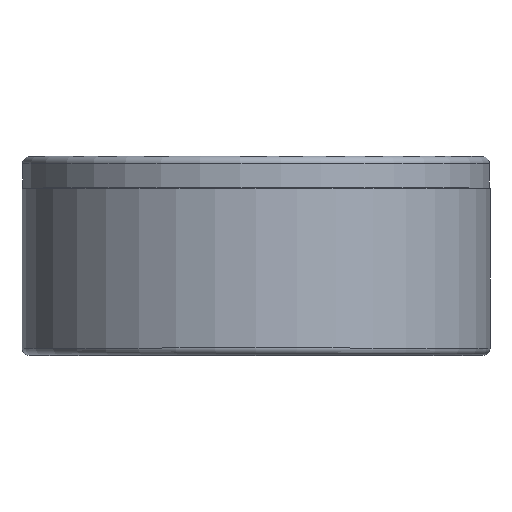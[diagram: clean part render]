
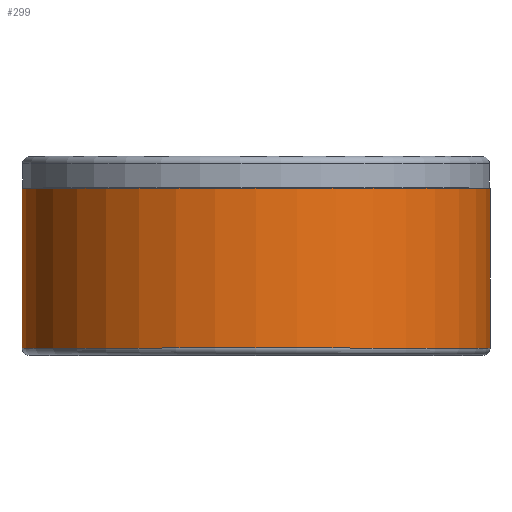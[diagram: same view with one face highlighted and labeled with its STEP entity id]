
A CAD part, top view. The second image highlights one B-rep face of the part: STEP entity #299.
In plain terms, the highlighted cylindrical face has radius 33.375 mm (diameter 66.75 mm), a full revolution.
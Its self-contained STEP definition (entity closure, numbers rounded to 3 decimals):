
#22=LINE('',#518,#30);
#30=VECTOR('',#413,33.375);
#38=CYLINDRICAL_SURFACE('',#345,33.375);
#52=FACE_OUTER_BOUND('',#72,.T.);
#72=EDGE_LOOP('',(#204,#205,#206,#207,#208));
#97=CIRCLE('',#344,33.375);
#98=CIRCLE('',#346,33.375);
#99=CIRCLE('',#347,33.375);
#129=VERTEX_POINT('',#514);
#130=VERTEX_POINT('',#517);
#131=VERTEX_POINT('',#519);
#159=EDGE_CURVE('',#129,#129,#97,.T.);
#160=EDGE_CURVE('',#129,#130,#22,.T.);
#161=EDGE_CURVE('',#131,#130,#98,.T.);
#162=EDGE_CURVE('',#130,#131,#99,.T.);
#204=ORIENTED_EDGE('',*,*,#159,.F.);
#205=ORIENTED_EDGE('',*,*,#160,.T.);
#206=ORIENTED_EDGE('',*,*,#161,.F.);
#207=ORIENTED_EDGE('',*,*,#162,.F.);
#208=ORIENTED_EDGE('',*,*,#160,.F.);
#299=ADVANCED_FACE('',(#52),#38,.T.);
#344=AXIS2_PLACEMENT_3D('',#515,#409,#410);
#345=AXIS2_PLACEMENT_3D('',#516,#411,#412);
#346=AXIS2_PLACEMENT_3D('',#520,#414,#415);
#347=AXIS2_PLACEMENT_3D('',#521,#416,#417);
#409=DIRECTION('center_axis',(0.,1.,0.));
#410=DIRECTION('ref_axis',(0.,0.,-1.));
#411=DIRECTION('center_axis',(0.,1.,0.));
#412=DIRECTION('ref_axis',(0.,0.,-1.));
#413=DIRECTION('',(0.,-1.,0.));
#414=DIRECTION('center_axis',(0.,-1.,0.));
#415=DIRECTION('ref_axis',(0.,0.,-1.));
#416=DIRECTION('center_axis',(0.,-1.,0.));
#417=DIRECTION('ref_axis',(0.,0.,-1.));
#514=CARTESIAN_POINT('',(23.05,23.8,33.375));
#515=CARTESIAN_POINT('Origin',(23.05,23.8,0.));
#516=CARTESIAN_POINT('Origin',(23.05,11.9,0.));
#517=CARTESIAN_POINT('',(23.05,1.,33.375));
#518=CARTESIAN_POINT('',(23.05,11.9,33.375));
#519=CARTESIAN_POINT('',(23.05,1.,-33.375));
#520=CARTESIAN_POINT('Origin',(23.05,1.,0.));
#521=CARTESIAN_POINT('Origin',(23.05,1.,0.));
